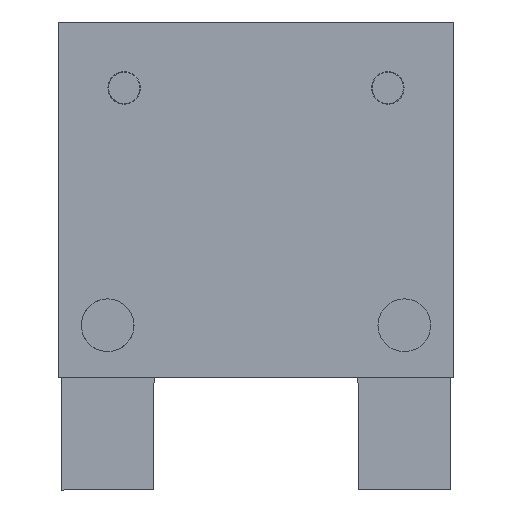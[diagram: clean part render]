
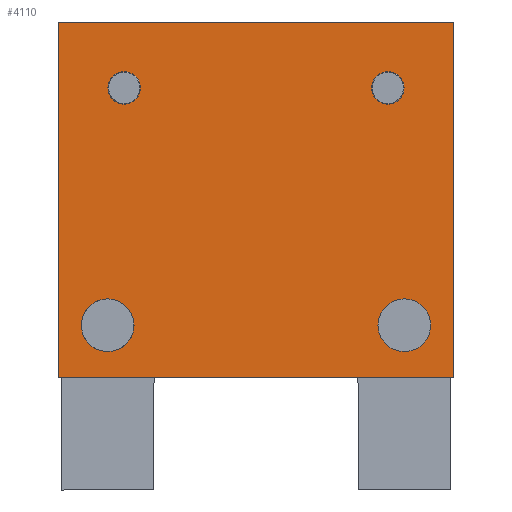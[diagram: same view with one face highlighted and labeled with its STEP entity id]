
A CAD part, left-side view. The second image highlights one B-rep face of the part: STEP entity #4110.
In plain terms, the highlighted planar face has unit normal (-1, 0, 0).
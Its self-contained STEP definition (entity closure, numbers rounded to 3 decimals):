
#3447=CARTESIAN_POINT('',(-27.742,5.0,24.227));
#3448=VERTEX_POINT('',#3447);
#3449=CARTESIAN_POINT('',(-27.742,5.0,22.997));
#3450=DIRECTION('',(1.0,0.0,0.0));
#3451=DIRECTION('',(0.0,0.0,-1.0));
#3452=AXIS2_PLACEMENT_3D('',#3449,#3450,#3451);
#3453=CIRCLE('',#3452,1.23);
#3454=EDGE_CURVE('',#3448,#3448,#3453,.T.);
#3488=CARTESIAN_POINT('',(-27.742,25.0,24.227));
#3489=VERTEX_POINT('',#3488);
#3490=CARTESIAN_POINT('',(-27.742,25.0,22.997));
#3491=DIRECTION('',(1.0,0.0,0.0));
#3492=DIRECTION('',(0.0,0.0,-1.0));
#3493=AXIS2_PLACEMENT_3D('',#3490,#3491,#3492);
#3494=CIRCLE('',#3493,1.23);
#3495=EDGE_CURVE('',#3489,#3489,#3494,.T.);
#3593=CARTESIAN_POINT('',(-27.742,0.0,27.997));
#3594=VERTEX_POINT('',#3593);
#3601=CARTESIAN_POINT('',(-27.742,0.0,0.997));
#3602=VERTEX_POINT('',#3601);
#3603=CARTESIAN_POINT('',(-27.742,0.0,27.997));
#3604=DIRECTION('',(0.0,0.0,-1.0));
#3605=VECTOR('',#3604,27.0);
#3606=LINE('',#3603,#3605);
#3607=EDGE_CURVE('',#3594,#3602,#3606,.T.);
#3672=CARTESIAN_POINT('',(-27.742,30.0,27.997));
#3673=VERTEX_POINT('',#3672);
#3680=CARTESIAN_POINT('',(-27.742,0.0,27.997));
#3681=DIRECTION('',(0.0,1.0,0.0));
#3682=VECTOR('',#3681,30.0);
#3683=LINE('',#3680,#3682);
#3684=EDGE_CURVE('',#3594,#3673,#3683,.T.);
#3865=CARTESIAN_POINT('',(-27.742,3.75,6.997));
#3866=VERTEX_POINT('',#3865);
#3867=CARTESIAN_POINT('',(-27.742,3.75,4.997));
#3868=DIRECTION('',(1.0,0.0,0.0));
#3869=DIRECTION('',(0.0,0.0,-1.0));
#3870=AXIS2_PLACEMENT_3D('',#3867,#3868,#3869);
#3871=CIRCLE('',#3870,2.0);
#3872=EDGE_CURVE('',#3866,#3866,#3871,.T.);
#3906=CARTESIAN_POINT('',(-27.742,26.25,6.997));
#3907=VERTEX_POINT('',#3906);
#3908=CARTESIAN_POINT('',(-27.742,26.25,4.997));
#3909=DIRECTION('',(1.0,0.0,0.0));
#3910=DIRECTION('',(0.0,0.0,-1.0));
#3911=AXIS2_PLACEMENT_3D('',#3908,#3909,#3910);
#3912=CIRCLE('',#3911,2.0);
#3913=EDGE_CURVE('',#3907,#3907,#3912,.T.);
#4075=CARTESIAN_POINT('',(-27.742,0.0,27.997));
#4076=DIRECTION('',(-1.0,0.0,0.0));
#4077=DIRECTION('',(0.0,0.0,1.0));
#4078=AXIS2_PLACEMENT_3D('',#4075,#4076,#4077);
#4079=PLANE('',#4078);
#4080=CARTESIAN_POINT('',(-27.742,30.0,0.997));
#4081=VERTEX_POINT('',#4080);
#4082=CARTESIAN_POINT('',(-27.742,30.0,27.997));
#4083=DIRECTION('',(0.0,0.0,-1.0));
#4084=VECTOR('',#4083,27.0);
#4085=LINE('',#4082,#4084);
#4086=EDGE_CURVE('',#3673,#4081,#4085,.T.);
#4087=ORIENTED_EDGE('',*,*,#4086,.T.);
#4088=CARTESIAN_POINT('',(-27.742,0.0,0.997));
#4089=DIRECTION('',(0.0,1.0,0.0));
#4090=VECTOR('',#4089,30.0);
#4091=LINE('',#4088,#4090);
#4092=EDGE_CURVE('',#3602,#4081,#4091,.T.);
#4093=ORIENTED_EDGE('',*,*,#4092,.F.);
#4094=ORIENTED_EDGE('',*,*,#3607,.F.);
#4095=ORIENTED_EDGE('',*,*,#3684,.T.);
#4096=EDGE_LOOP('',(#4087,#4093,#4094,#4095));
#4097=FACE_OUTER_BOUND('',#4096,.T.);
#4098=ORIENTED_EDGE('',*,*,#3454,.T.);
#4099=EDGE_LOOP('',(#4098));
#4100=FACE_BOUND('',#4099,.T.);
#4101=ORIENTED_EDGE('',*,*,#3495,.T.);
#4102=EDGE_LOOP('',(#4101));
#4103=FACE_BOUND('',#4102,.T.);
#4104=ORIENTED_EDGE('',*,*,#3872,.T.);
#4105=EDGE_LOOP('',(#4104));
#4106=FACE_BOUND('',#4105,.T.);
#4107=ORIENTED_EDGE('',*,*,#3913,.T.);
#4108=EDGE_LOOP('',(#4107));
#4109=FACE_BOUND('',#4108,.T.);
#4110=ADVANCED_FACE('',(#4097,#4100,#4103,#4106,#4109),#4079,.T.);
